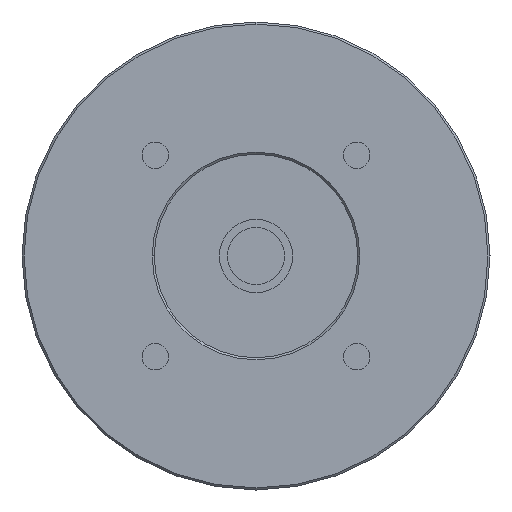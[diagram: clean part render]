
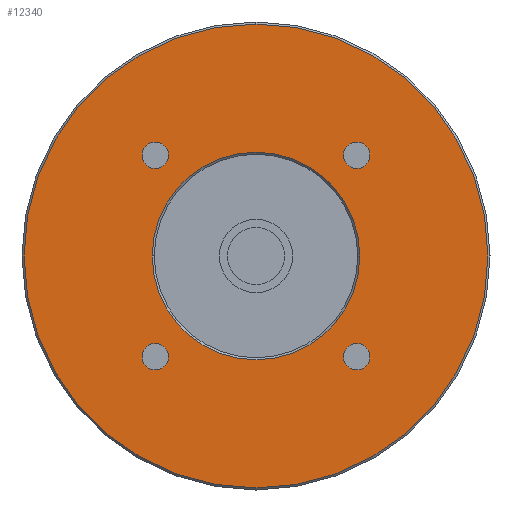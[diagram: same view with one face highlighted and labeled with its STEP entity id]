
A CAD part, left-side view. The second image highlights one B-rep face of the part: STEP entity #12340.
In plain terms, the highlighted planar face has unit normal (-1, 0, 0) as drawn and (0, 0, -1) by its records, which use the part's own axes.
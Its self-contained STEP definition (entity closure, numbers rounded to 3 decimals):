
#11170=CARTESIAN_POINT('',(0.,57.,-47.4));
#11180=VERTEX_POINT('',#11170);
#11210=CARTESIAN_POINT('',(0.,0.,
-47.4));
#11220=DIRECTION('',(0.,0.,-1.));
#11230=DIRECTION('',(1.,0.,0.));
#11240=AXIS2_PLACEMENT_3D('',#11210,#11220,#11230);
#11250=CIRCLE('',#11240,57.);
#11260=CARTESIAN_POINT('',(57.,0.,-47.4));
#11270=VERTEX_POINT('',#11260);
#11280=EDGE_CURVE('',#11180,#11270,#11250,.T.);
#11300=CARTESIAN_POINT('',(0.,-57.,-47.4));
#11310=VERTEX_POINT('',#11300);
#11320=EDGE_CURVE('',#11270,#11310,#11250,.T.);
#11480=CARTESIAN_POINT('',(0.,0.,
-47.4));
#11490=DIRECTION('',(0.,0.,-1.));
#11500=DIRECTION('',(1.,0.,0.));
#11510=AXIS2_PLACEMENT_3D('',#11480,#11490,#11500);
#11520=PLANE('',#11510);
#11530=EDGE_CURVE('',#11310,#11180,#11250,.T.);
#11540=ORIENTED_EDGE('',*,*,#11530,.T.);
#11550=ORIENTED_EDGE('',*,*,#11320,.T.);
#11560=ORIENTED_EDGE('',*,*,#11280,.T.);
#11570=EDGE_LOOP('',(#11560,#11550,#11540));
#11580=FACE_OUTER_BOUND('',#11570,.T.);
#11590=CARTESIAN_POINT('',(0.,0.,
-47.4));
#11600=DIRECTION('',(0.,0.,-1.));
#11610=DIRECTION('',(1.,0.,0.));
#11620=AXIS2_PLACEMENT_3D('',#11590,#11600,#11610);
#11630=CIRCLE('',#11620,25.5);
#11640=CARTESIAN_POINT('',(25.5,0.,-47.4));
#11650=VERTEX_POINT('',#11640);
#11660=CARTESIAN_POINT('',(-25.5,0.,-47.4));
#11670=VERTEX_POINT('',#11660);
#11680=EDGE_CURVE('',#11650,#11670,#11630,.T.);
#11690=ORIENTED_EDGE('',*,*,#11680,.F.);
#11700=EDGE_CURVE('',#11670,#11650,#11630,.T.);
#11710=ORIENTED_EDGE('',*,*,#11700,.F.);
#11720=EDGE_LOOP('',(#11710,#11690));
#11730=FACE_BOUND('',#11720,.T.);
#11740=CARTESIAN_POINT('',(24.749,-24.749,-47.4));
#11750=DIRECTION('',(0.,0.,-1.));
#11760=DIRECTION('',(1.,0.,0.));
#11770=AXIS2_PLACEMENT_3D('',#11740,#11750,#11760);
#11780=CIRCLE('',#11770,3.25);
#11790=CARTESIAN_POINT('',(27.999,-24.749,-47.4));
#11800=VERTEX_POINT('',#11790);
#11810=CARTESIAN_POINT('',(21.499,-24.749,-47.4));
#11820=VERTEX_POINT('',#11810);
#11830=EDGE_CURVE('',#11800,#11820,#11780,.T.);
#11840=ORIENTED_EDGE('',*,*,#11830,.F.);
#11850=EDGE_CURVE('',#11820,#11800,#11780,.T.);
#11860=ORIENTED_EDGE('',*,*,#11850,.F.);
#11870=EDGE_LOOP('',(#11860,#11840));
#11880=FACE_BOUND('',#11870,.T.);
#11890=CARTESIAN_POINT('',(24.749,24.749,-47.4));
#11900=DIRECTION('',(0.,0.,-1.));
#11910=DIRECTION('',(1.,0.,0.));
#11920=AXIS2_PLACEMENT_3D('',#11890,#11900,#11910);
#11930=CIRCLE('',#11920,3.25);
#11940=CARTESIAN_POINT('',(27.999,24.749,-47.4));
#11950=VERTEX_POINT('',#11940);
#11960=CARTESIAN_POINT('',(21.499,24.749,-47.4));
#11970=VERTEX_POINT('',#11960);
#11980=EDGE_CURVE('',#11950,#11970,#11930,.T.);
#11990=ORIENTED_EDGE('',*,*,#11980,.F.);
#12000=EDGE_CURVE('',#11970,#11950,#11930,.T.);
#12010=ORIENTED_EDGE('',*,*,#12000,.F.);
#12020=EDGE_LOOP('',(#12010,#11990));
#12030=FACE_BOUND('',#12020,.T.);
#12040=CARTESIAN_POINT('',(-24.749,24.749,-47.4));
#12050=DIRECTION('',(0.,0.,-1.));
#12060=DIRECTION('',(1.,0.,0.));
#12070=AXIS2_PLACEMENT_3D('',#12040,#12050,#12060);
#12080=CIRCLE('',#12070,3.25);
#12090=CARTESIAN_POINT('',(-21.499,24.749,-47.4));
#12100=VERTEX_POINT('',#12090);
#12110=CARTESIAN_POINT('',(-27.999,24.749,-47.4));
#12120=VERTEX_POINT('',#12110);
#12130=EDGE_CURVE('',#12100,#12120,#12080,.T.);
#12140=ORIENTED_EDGE('',*,*,#12130,.F.);
#12150=EDGE_CURVE('',#12120,#12100,#12080,.T.);
#12160=ORIENTED_EDGE('',*,*,#12150,.F.);
#12170=EDGE_LOOP('',(#12160,#12140));
#12180=FACE_BOUND('',#12170,.T.);
#12190=CARTESIAN_POINT('',(-24.749,-24.749,-47.4));
#12200=DIRECTION('',(0.,0.,-1.));
#12210=DIRECTION('',(1.,0.,0.));
#12220=AXIS2_PLACEMENT_3D('',#12190,#12200,#12210);
#12230=CIRCLE('',#12220,3.25);
#12240=CARTESIAN_POINT('',(-21.499,-24.749,-47.4));
#12250=VERTEX_POINT('',#12240);
#12260=CARTESIAN_POINT('',(-27.999,-24.749,-47.4));
#12270=VERTEX_POINT('',#12260);
#12280=EDGE_CURVE('',#12250,#12270,#12230,.T.);
#12290=ORIENTED_EDGE('',*,*,#12280,.F.);
#12300=EDGE_CURVE('',#12270,#12250,#12230,.T.);
#12310=ORIENTED_EDGE('',*,*,#12300,.F.);
#12320=EDGE_LOOP('',(#12310,#12290));
#12330=FACE_BOUND('',#12320,.T.);
#12340=ADVANCED_FACE('',(#11580,#11730,#11880,#12030,#12180,#12330),
#11520,.T.);
